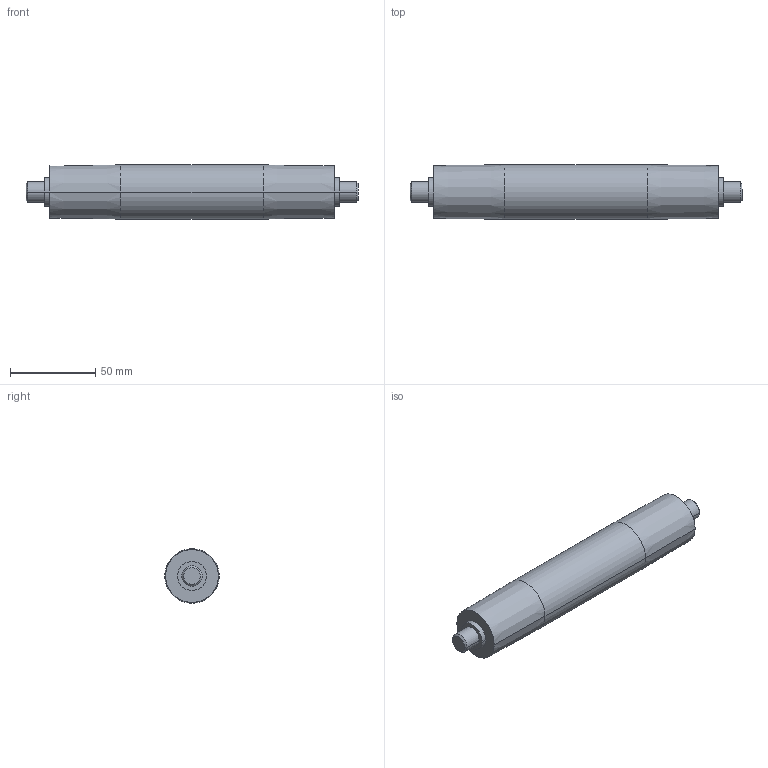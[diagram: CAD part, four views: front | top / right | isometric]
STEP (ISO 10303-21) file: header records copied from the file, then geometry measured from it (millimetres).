
FILE_DESCRIPTION (( 'STEP AP214' ), '1' );
FILE_NAME ('084.030.130.STEP', '2021-02-05T15:41:32', ( '' ), ( '' ), 'SwSTEP 2.0', 'SolidWorks 2018', '' );
FILE_SCHEMA (( 'AUTOMOTIVE_DESIGN' ));
Length unit declared in the file: millimetre
Products named in the file (1): 084.030.130
Bounding box: 195 x 32 x 32 mm (x, y, z)
Volume: 136047.1 mm3; surface area: 19270.7 mm2
Topology: 1 solids, 1 shells, 24 faces, 46 edges, 28 vertices
Faces by surface type: cylinder 10, cone 8, plane 6
Entity records: 648 total; most frequent: DIRECTION 124, CARTESIAN_POINT 99, ORIENTED_EDGE 92, AXIS2_PLACEMENT_3D 53, EDGE_CURVE 46, EDGE_LOOP 28, CIRCLE 28, VERTEX_POINT 28
